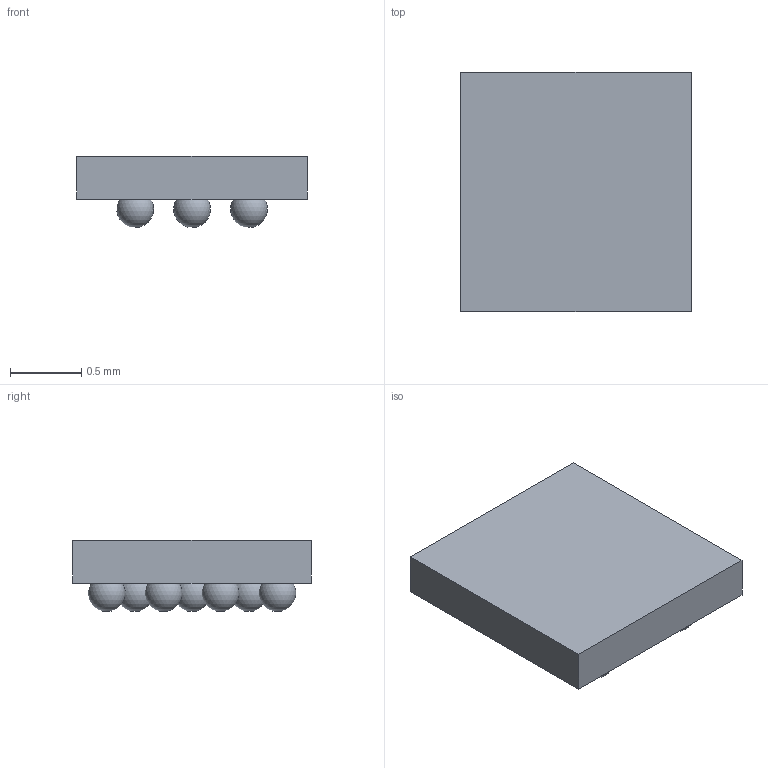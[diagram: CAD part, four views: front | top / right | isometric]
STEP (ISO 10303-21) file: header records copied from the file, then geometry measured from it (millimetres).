
FILE_DESCRIPTION(('Open CASCADE Model'),'2;1');
FILE_NAME('Open CASCADE Shape Model','2026-10-14T06:42:54',('Author'),( 'Open CASCADE'),'Open CASCADE STEP processor 7.9','Open CASCADE 7.9' ,'Unknown');
FILE_SCHEMA(('AUTOMOTIVE_DESIGN { 1 0 10303 214 1 1 1 1 }'));
Length unit declared in the file: millimetre
Products named in the file (12): LT3046 WLCSP nominal die body; visual preview; Nominal solder ball A1 OUT; Nominal solder ball A3 IN; Nominal solder ball Aa2 OUT; Nominal solder ball B1 OUTS; Nominal solder ball B3 EN/UV; Nominal solder ball Ba2 DNC; Nominal solder ball E1 GND; Nominal solder ball E3 PG; Nominal solder ball Ea2 SET; Nominal solder ball F1 PGFB; Nominal solder ball F3 ILIM
Bounding box: 1.62 x 1.68 x 0.5 mm (x, y, z)
Volume: 0.9 mm3; surface area: 9.8 mm2
Topology: 12 solids, 12 shells, 17 faces, 45 edges, 30 vertices
Faces by surface type: sphere 11, plane 6
Entity records: 686 total; most frequent: CARTESIAN_POINT 73, DIRECTION 72, LINE 36, VECTOR 36, ORIENTED_EDGE 24, PCURVE 24, DEFINITIONAL_REPRESENTATION 24, VERTEX_POINT 19
